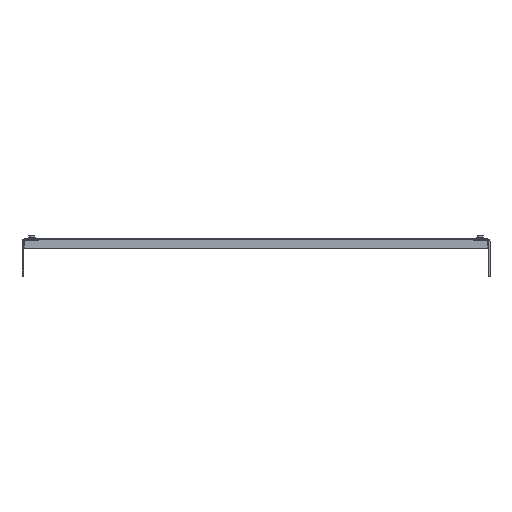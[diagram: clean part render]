
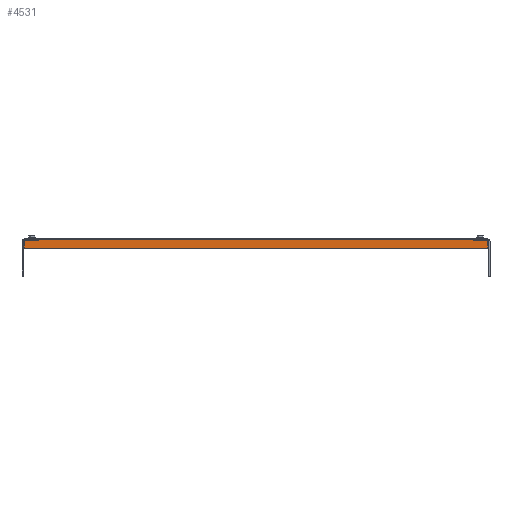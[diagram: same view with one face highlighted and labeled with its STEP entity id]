
A CAD part, front view. The second image highlights one B-rep face of the part: STEP entity #4531.
In plain terms, the highlighted planar face has unit normal (0, -1, 0).
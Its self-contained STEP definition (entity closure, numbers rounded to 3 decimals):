
#319 = VERTEX_POINT ( 'NONE', #39340 ) ;
#1788 = DIRECTION ( 'NONE',  ( 0., 0., -1. ) ) ;
#3123 = EDGE_CURVE ( 'NONE', #18537, #4311, #29848, .T. ) ;
#4311 = VERTEX_POINT ( 'NONE', #43070 ) ;
#4531 = ADVANCED_FACE ( 'NONE', ( #22524 ), #25576, .F. ) ;
#5127 = CARTESIAN_POINT ( 'NONE',  ( 352.5, -26.5, -2.4 ) ) ;
#8007 = EDGE_CURVE ( 'NONE', #319, #29265, #26870, .T. ) ;
#14187 = DIRECTION ( 'NONE',  ( 0., 0., -1. ) ) ;
#14265 = CARTESIAN_POINT ( 'NONE',  ( 352.5, -26.5, 0. ) ) ;
#17167 = ORIENTED_EDGE ( 'NONE', *, *, #8007, .T. ) ;
#18310 = LINE ( 'NONE', #31313, #31218 ) ;
#18537 = VERTEX_POINT ( 'NONE', #21388 ) ;
#18856 = CARTESIAN_POINT ( 'NONE',  ( -352.5, -26.5, 0. ) ) ;
#21388 = CARTESIAN_POINT ( 'NONE',  ( 352.5, -26.5, -15. ) ) ;
#21722 = DIRECTION ( 'NONE',  ( 0., 0., 1. ) ) ;
#21808 = DIRECTION ( 'NONE',  ( -1., 0., 0. ) ) ;
#22524 = FACE_OUTER_BOUND ( 'NONE', #22999, .T. ) ;
#22999 = EDGE_LOOP ( 'NONE', ( #35307, #50301, #29910, #17167 ) ) ;
#25576 = PLANE ( 'NONE',  #54261 ) ;
#26572 = LINE ( 'NONE', #18856, #48824 ) ;
#26870 = LINE ( 'NONE', #5127, #45568 ) ;
#29120 = EDGE_CURVE ( 'NONE', #319, #18537, #18310, .T. ) ;
#29265 = VERTEX_POINT ( 'NONE', #31217 ) ;
#29848 = LINE ( 'NONE', #42814, #51746 ) ;
#29910 = ORIENTED_EDGE ( 'NONE', *, *, #29120, .F. ) ;
#31217 = CARTESIAN_POINT ( 'NONE',  ( -352.5, -26.5, -2.4 ) ) ;
#31218 = VECTOR ( 'NONE', #14187, 1000. ) ;
#31313 = CARTESIAN_POINT ( 'NONE',  ( 352.5, -26.5, 0. ) ) ;
#31911 = EDGE_CURVE ( 'NONE', #29265, #4311, #26572, .T. ) ;
#35307 = ORIENTED_EDGE ( 'NONE', *, *, #31911, .T. ) ;
#38820 = DIRECTION ( 'NONE',  ( -1., 0., 0. ) ) ;
#39132 = DIRECTION ( 'NONE',  ( 0., 1., 0. ) ) ;
#39340 = CARTESIAN_POINT ( 'NONE',  ( 352.5, -26.5, -2.4 ) ) ;
#42814 = CARTESIAN_POINT ( 'NONE',  ( 352.5, -26.5, -15. ) ) ;
#43070 = CARTESIAN_POINT ( 'NONE',  ( -352.5, -26.5, -15. ) ) ;
#45568 = VECTOR ( 'NONE', #38820, 1000. ) ;
#48824 = VECTOR ( 'NONE', #1788, 1000. ) ;
#50301 = ORIENTED_EDGE ( 'NONE', *, *, #3123, .F. ) ;
#51746 = VECTOR ( 'NONE', #21808, 1000. ) ;
#54261 = AXIS2_PLACEMENT_3D ( 'NONE', #14265, #39132, #21722 ) ;
